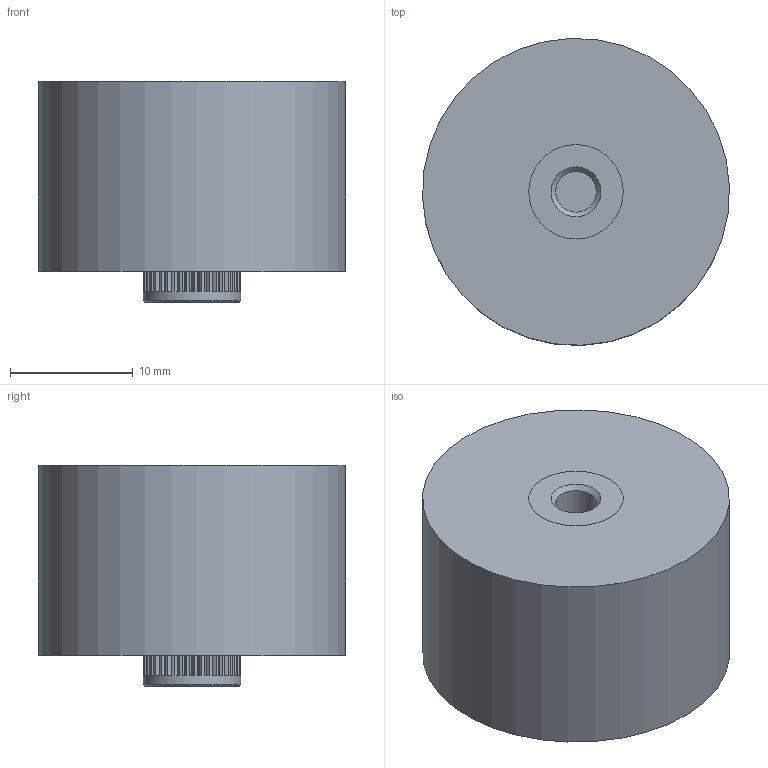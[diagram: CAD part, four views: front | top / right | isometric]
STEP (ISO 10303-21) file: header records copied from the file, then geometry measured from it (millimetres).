
FILE_DESCRIPTION((''),'2;1');
FILE_NAME('I:\Marketing\M6t1\M6T1 - Internal\Drawings\Werk 3\Finished product\Ceramite\Upload for homepage\715\715C10KTD12.stp','2013-06-07T13:19:49',('sherden'),(''),'Autodesk Inventor 2013','Autodesk Inventor 2013','');
FILE_SCHEMA(('CONFIG_CONTROL_DESIGN'));
Length unit declared in the file: millimetre
Products named in the file (1): 715C10KTD12
Bounding box: 24.98 x 24.98 x 18 mm (x, y, z)
Volume: 7625.8 mm3; surface area: 2376.3 mm2
Topology: 1 solids, 1 shells, 173 faces, 499 edges, 332 vertices
Faces by surface type: plane 166, cylinder 4, cone 3
Full cylindrical faces by diameter (mm): 3.302 x2, 7.95 x1, 25 x1
Entity records: 5824 total; most frequent: CARTESIAN_POINT 996, ORIENTED_EDGE 982, DIRECTION 930, EDGE_CURVE 491, VECTOR 400, LINE 400, VERTEX_POINT 331, AXIS2_PLACEMENT_3D 265
